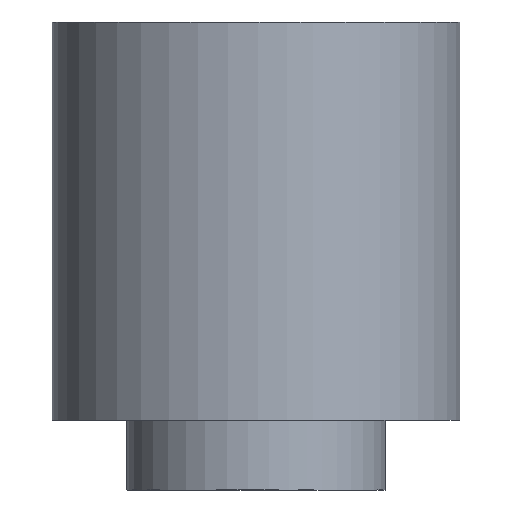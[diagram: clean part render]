
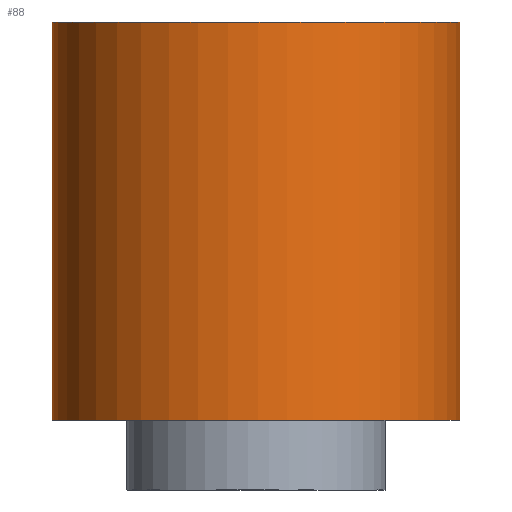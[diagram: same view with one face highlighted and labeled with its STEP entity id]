
A CAD part, front view. The second image highlights one B-rep face of the part: STEP entity #88.
In plain terms, the highlighted free-form (B-spline) face has degree [2, 1] with [7, 2] control points.
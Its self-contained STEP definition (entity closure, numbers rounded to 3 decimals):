
#69 = EDGE_CURVE('',#70,#70,#72,.T.);
#70 = VERTEX_POINT('',#71);
#71 = CARTESIAN_POINT('',(-4.1,0.,0.));
#72 = ( BOUNDED_CURVE() B_SPLINE_CURVE(2,(#73,#74,#75,#76,#77,#78,#79),
.UNSPECIFIED.,.T.,.F.) B_SPLINE_CURVE_WITH_KNOTS((1,2,2,2,2,1),(
    -2.094,0.,2.094,4.189,6.283,
8.378),.UNSPECIFIED.) CURVE() GEOMETRIC_REPRESENTATION_ITEM() 
RATIONAL_B_SPLINE_CURVE((1.,0.5,1.,0.5,1.,0.5,1.)) REPRESENTATION_ITEM(
  '') );
#73 = CARTESIAN_POINT('',(-4.1,0.,0.));
#74 = CARTESIAN_POINT('',(-4.1,7.101,0.));
#75 = CARTESIAN_POINT('',(2.05,3.551,0.));
#76 = CARTESIAN_POINT('',(8.2,0.,0.));
#77 = CARTESIAN_POINT('',(2.05,-3.551,0.));
#78 = CARTESIAN_POINT('',(-4.1,-7.101,0.));
#79 = CARTESIAN_POINT('',(-4.1,0.,0.));
#88 = ADVANCED_FACE('',(#89),#110,.T.);
#89 = FACE_BOUND('',#90,.T.);
#90 = EDGE_LOOP('',(#91,#103,#108,#109));
#91 = ORIENTED_EDGE('',*,*,#92,.T.);
#92 = EDGE_CURVE('',#93,#93,#95,.T.);
#93 = VERTEX_POINT('',#94);
#94 = CARTESIAN_POINT('',(-4.1,0.,8.));
#95 = ( BOUNDED_CURVE() B_SPLINE_CURVE(2,(#96,#97,#98,#99,#100,#101,#102
),.UNSPECIFIED.,.T.,.F.) B_SPLINE_CURVE_WITH_KNOTS((1,2,2,2,2,1),(
    -2.094,0.,2.094,4.189,6.283,
8.378),.UNSPECIFIED.) CURVE() GEOMETRIC_REPRESENTATION_ITEM() 
RATIONAL_B_SPLINE_CURVE((1.,0.5,1.,0.5,1.,0.5,1.)) REPRESENTATION_ITEM(
  '') );
#96 = CARTESIAN_POINT('',(-4.1,0.,8.));
#97 = CARTESIAN_POINT('',(-4.1,7.101,8.));
#98 = CARTESIAN_POINT('',(2.05,3.551,8.));
#99 = CARTESIAN_POINT('',(8.2,0.,8.));
#100 = CARTESIAN_POINT('',(2.05,-3.551,8.));
#101 = CARTESIAN_POINT('',(-4.1,-7.101,8.));
#102 = CARTESIAN_POINT('',(-4.1,0.,8.));
#103 = ORIENTED_EDGE('',*,*,#104,.F.);
#104 = EDGE_CURVE('',#70,#93,#105,.T.);
#105 = B_SPLINE_CURVE_WITH_KNOTS('',1,(#106,#107),.UNSPECIFIED.,.F.,.F.,
  (2,2),(0.,8.),.PIECEWISE_BEZIER_KNOTS.);
#106 = CARTESIAN_POINT('',(-4.1,0.,0.));
#107 = CARTESIAN_POINT('',(-4.1,0.,8.));
#108 = ORIENTED_EDGE('',*,*,#69,.F.);
#109 = ORIENTED_EDGE('',*,*,#104,.T.);
#110 = ( BOUNDED_SURFACE() B_SPLINE_SURFACE(2,1,(
    (#111,#112)
    ,(#113,#114)
    ,(#115,#116)
    ,(#117,#118)
    ,(#119,#120)
    ,(#121,#122)
,(#123,#124
    )),.UNSPECIFIED.,.T.,.F.,.F.) B_SPLINE_SURFACE_WITH_KNOTS((1,2,2,2,2
    ,1),(2,2),(-2.094,0.,2.094,4.189,
    6.283,8.378),(0.,8.),.UNSPECIFIED.) 
GEOMETRIC_REPRESENTATION_ITEM() RATIONAL_B_SPLINE_SURFACE((
    (1.,1.)
    ,(0.5,0.5)
    ,(1.,1.)
    ,(0.5,0.5)
    ,(1.,1.)
    ,(0.5,0.5)
,(1.,1.))) REPRESENTATION_ITEM('') SURFACE() );
#111 = CARTESIAN_POINT('',(-4.1,0.,0.));
#112 = CARTESIAN_POINT('',(-4.1,0.,8.));
#113 = CARTESIAN_POINT('',(-4.1,-7.101,0.));
#114 = CARTESIAN_POINT('',(-4.1,-7.101,8.));
#115 = CARTESIAN_POINT('',(2.05,-3.551,0.));
#116 = CARTESIAN_POINT('',(2.05,-3.551,8.));
#117 = CARTESIAN_POINT('',(8.2,0.,0.));
#118 = CARTESIAN_POINT('',(8.2,0.,8.));
#119 = CARTESIAN_POINT('',(2.05,3.551,0.));
#120 = CARTESIAN_POINT('',(2.05,3.551,8.));
#121 = CARTESIAN_POINT('',(-4.1,7.101,0.));
#122 = CARTESIAN_POINT('',(-4.1,7.101,8.));
#123 = CARTESIAN_POINT('',(-4.1,0.,0.));
#124 = CARTESIAN_POINT('',(-4.1,0.,8.));
